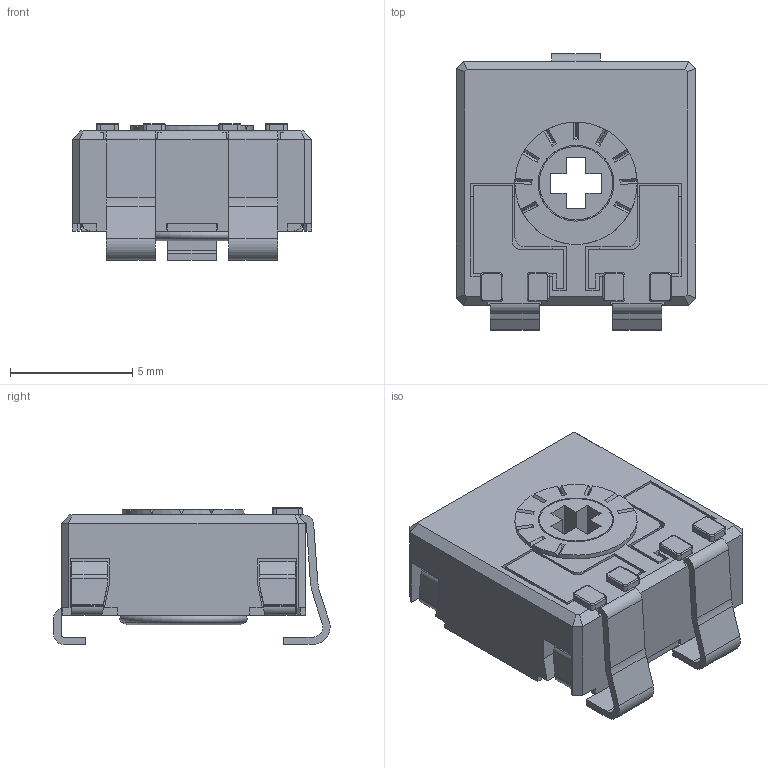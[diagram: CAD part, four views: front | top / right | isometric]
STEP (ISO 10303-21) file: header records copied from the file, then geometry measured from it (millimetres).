
FILE_DESCRIPTION(/* description */ (''),/* implementation_level */ '2;1');
FILE_NAME(/* name */ 'COMCA9RVSMD.stp',/* time_stamp */ '2026-03-30T17:15:07+02:00',/* author */ ('CEM'),/* organization */ (''),/* preprocessor_version */ 'ST-DEVELOPER v20.1',/* originating_system */ 'Autodesk Inventor 2026',/* authorisation */ '');
FILE_SCHEMA (('AUTOMOTIVE_DESIGN { 1 0 10303 214 3 1 1 }'));
Length unit declared in the file: millimetre
Products named in the file (1): COMCA9RVSMD
Bounding box: 9.8 x 11.3 x 5.6 mm (x, y, z)
Volume: 247.9 mm3; surface area: 847.2 mm2
Topology: 2 solids, 2 shells, 506 faces, 1454 edges, 926 vertices
Faces by surface type: plane 393, cylinder 78, torus 19, cone 16
Full cylindrical faces by diameter (mm): 3 x1, 3.1 x1, 4 x1, 4.8 x1, 5 x1
Entity records: 16612 total; most frequent: CARTESIAN_POINT 2939, ORIENTED_EDGE 2908, DIRECTION 2707, EDGE_CURVE 1454, LINE 1163, VECTOR 1163, VERTEX_POINT 926, AXIS2_PLACEMENT_3D 772
